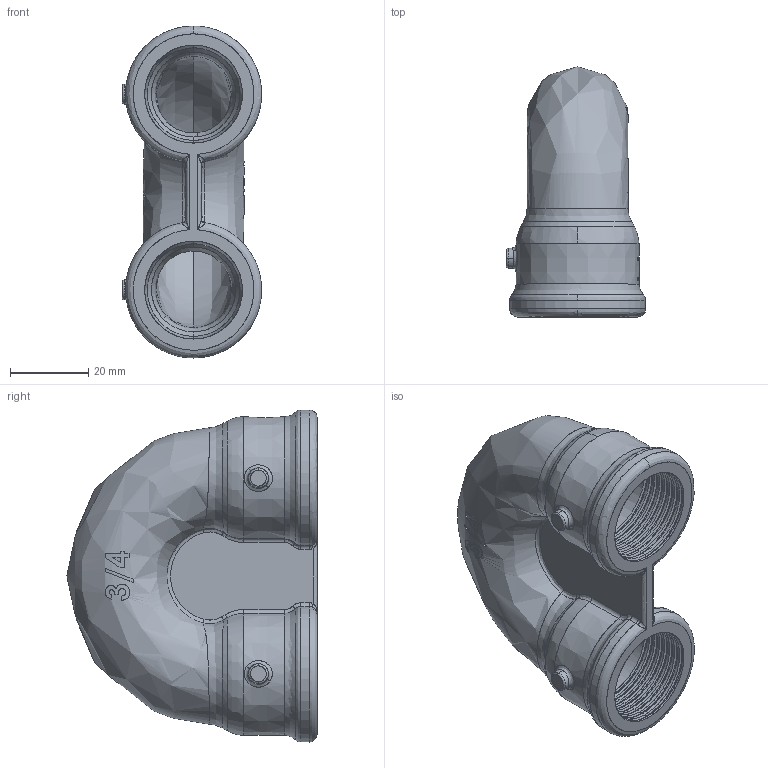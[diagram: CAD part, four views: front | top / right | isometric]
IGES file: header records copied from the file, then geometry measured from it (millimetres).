
Start section: SolidWorks IGES file using analytic representation for surfaces
Global section: file name: C:\Users\Joel Rosa\Desktop\Tubulação\12-29-OK\12-29-006.IGS; native system: SolidWorks 2011; preprocessor: SolidWorks 2011; author: Joel Rosa; date: 131026.103915; units: millimetre
Bounding box: 35.59 x 63.9 x 84.8 mm (x, y, z)
Surface area: 23594.7 mm2 (no closed solid volume)
Topology: 0 solids, 0 shells, 352 faces, 3726 edges, 3722 vertices
Faces by surface type: bspline 221, revolution 131
